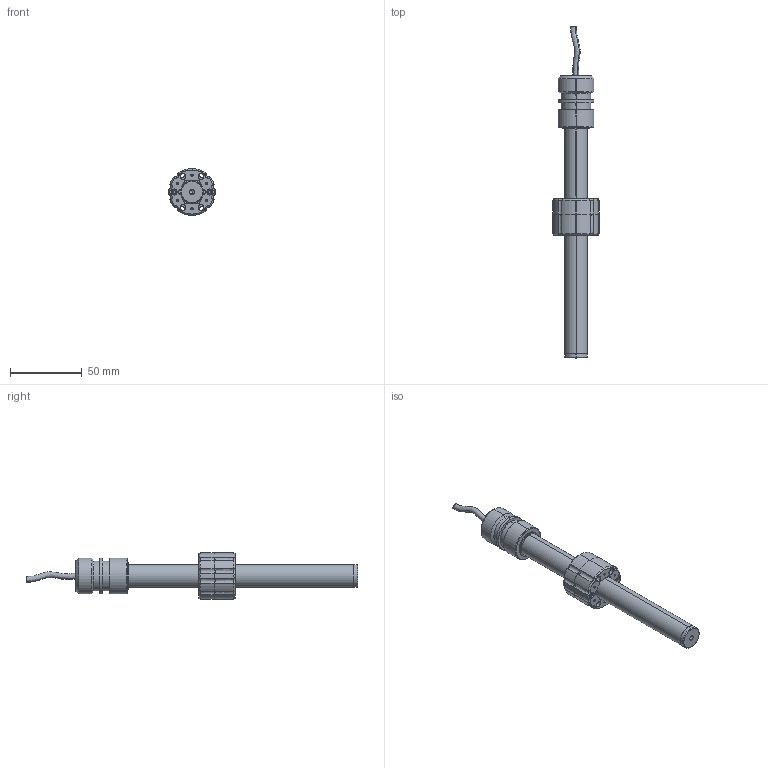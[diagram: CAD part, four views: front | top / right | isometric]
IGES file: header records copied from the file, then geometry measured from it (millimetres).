
Start section: SolidWorks IGES file using analytic representation for surfaces
Global section: file name: K:\Disegni Catalogo\Posizione\PMI12\PMI-12-F-0100-X V2\3D\Solidworks 2010\PMI-12-F-0100-X V2\PMI-12-F-0100-X V2.IGS; native system: SolidWorks 2010; preprocessor: SolidWorks 2010; author: loda-w1; date: 101110.152620; units: millimetre
Bounding box: 32.8 x 231.7 x 32.8 mm (x, y, z)
Surface area: 35336.9 mm2 (no closed solid volume)
Topology: 0 solids, 0 shells, 895 faces, 8406 edges, 8390 vertices
Faces by surface type: revolution 804, bspline 91
